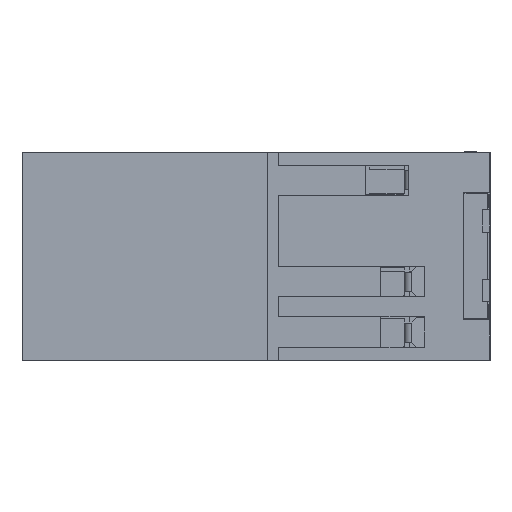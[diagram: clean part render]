
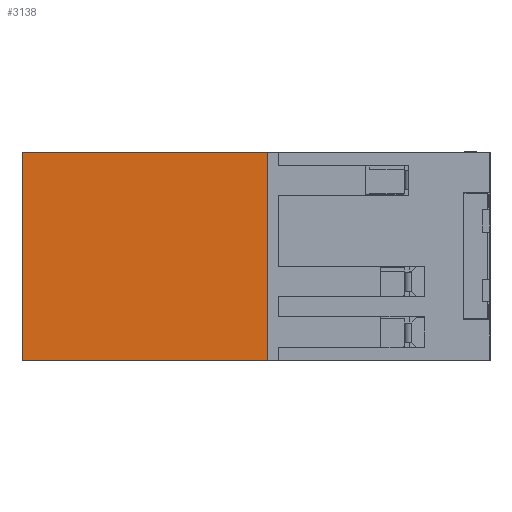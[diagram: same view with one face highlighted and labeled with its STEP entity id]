
A CAD part, left-side view. The second image highlights one B-rep face of the part: STEP entity #3138.
In plain terms, the highlighted planar face has unit normal (-1, 0, 0) as drawn and (1, 0, 0) by its records, which use the part's own axes.
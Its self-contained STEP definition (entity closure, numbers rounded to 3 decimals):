
#3138=ADVANCED_FACE('',(#6192),#4785,.T.);
#4785=PLANE('',#34447);
#6192=FACE_OUTER_BOUND('',#7751,.T.);
#7751=EDGE_LOOP('',(#11171,#11172,#11173,#11174,#11175,#11176,#11177,#11178));
#11171=ORIENTED_EDGE('',*,*,#22797,.F.);
#11172=ORIENTED_EDGE('',*,*,#22855,.F.);
#11173=ORIENTED_EDGE('',*,*,#22863,.T.);
#11174=ORIENTED_EDGE('',*,*,#22782,.F.);
#11175=ORIENTED_EDGE('',*,*,#22811,.F.);
#11176=ORIENTED_EDGE('',*,*,#22862,.T.);
#11177=ORIENTED_EDGE('',*,*,#22405,.T.);
#11178=ORIENTED_EDGE('',*,*,#22790,.T.);
#19261=VERTEX_POINT('',#46531);
#19262=VERTEX_POINT('',#46533);
#19505=VERTEX_POINT('',#47301);
#19506=VERTEX_POINT('',#47303);
#19511=VERTEX_POINT('',#47317);
#19516=VERTEX_POINT('',#47330);
#19526=VERTEX_POINT('',#47355);
#19563=VERTEX_POINT('',#47438);
#22405=EDGE_CURVE('',#19262,#19261,#26913,.T.);
#22782=EDGE_CURVE('',#19505,#19506,#27248,.T.);
#22790=EDGE_CURVE('',#19261,#19511,#27253,.T.);
#22797=EDGE_CURVE('',#19516,#19511,#27260,.T.);
#22811=EDGE_CURVE('',#19526,#19505,#27274,.T.);
#22855=EDGE_CURVE('',#19563,#19516,#27318,.T.);
#22862=EDGE_CURVE('',#19526,#19262,#27321,.T.);
#22863=EDGE_CURVE('',#19563,#19506,#27322,.T.);
#26913=LINE('',#46532,#30984);
#27248=LINE('',#47302,#31319);
#27253=LINE('',#47318,#31324);
#27260=LINE('',#47331,#31331);
#27274=LINE('',#47356,#31345);
#27318=LINE('',#47439,#31389);
#27321=LINE('',#47452,#31392);
#27322=LINE('',#47454,#31393);
#30984=VECTOR('',#37492,1.);
#31319=VECTOR('',#38109,1.);
#31324=VECTOR('',#38124,1.);
#31331=VECTOR('',#38133,1.);
#31345=VECTOR('',#38149,1.);
#31389=VECTOR('',#38197,1.);
#31392=VECTOR('',#38212,1.);
#31393=VECTOR('',#38215,1.);
#34447=AXIS2_PLACEMENT_3D('',#47455,#38216,#38217);
#37492=DIRECTION('',(0.,0.,-1.));
#38109=DIRECTION('',(0.,-1.,0.));
#38124=DIRECTION('',(0.,1.,0.));
#38133=DIRECTION('',(0.,0.,-1.));
#38149=DIRECTION('',(0.,0.,-1.));
#38197=DIRECTION('',(0.,-1.,0.));
#38212=DIRECTION('',(0.,-1.,0.));
#38215=DIRECTION('',(0.,0.,-1.));
#38216=DIRECTION('',(1.,0.,0.));
#38217=DIRECTION('',(0.,0.,-1.));
#46531=CARTESIAN_POINT('',(25.9,0.,22.1));
#46532=CARTESIAN_POINT('',(25.9,0.,61.1));
#46533=CARTESIAN_POINT('',(25.9,0.,61.1));
#47301=CARTESIAN_POINT('',(25.9,27.2,22.1));
#47302=CARTESIAN_POINT('',(25.9,24.5,22.1));
#47303=CARTESIAN_POINT('',(25.9,24.5,22.1));
#47317=CARTESIAN_POINT('',(25.9,2.7,22.1));
#47318=CARTESIAN_POINT('',(25.9,2.7,22.1));
#47330=CARTESIAN_POINT('',(25.9,2.7,29.1));
#47331=CARTESIAN_POINT('',(25.9,2.7,29.1));
#47355=CARTESIAN_POINT('',(25.9,27.2,61.1));
#47356=CARTESIAN_POINT('',(25.9,27.2,61.1));
#47438=CARTESIAN_POINT('',(25.9,24.5,29.1));
#47439=CARTESIAN_POINT('',(25.9,27.2,29.1));
#47452=CARTESIAN_POINT('',(25.9,27.2,61.1));
#47454=CARTESIAN_POINT('',(25.9,24.5,29.1));
#47455=CARTESIAN_POINT('',(25.9,27.2,61.1));
